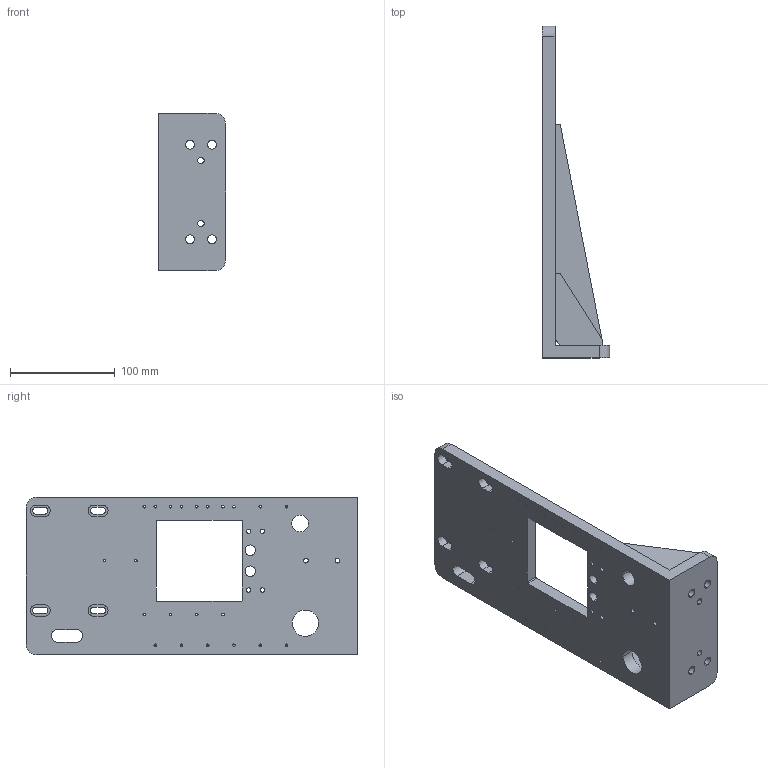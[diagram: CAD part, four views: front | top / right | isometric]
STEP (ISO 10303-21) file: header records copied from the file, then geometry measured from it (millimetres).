
FILE_DESCRIPTION (( 'STEP AP214' ), '1' );
FILE_NAME ('GZ30.20_V1絳寢假蚾啣.STEP', '2021-06-06T18:45:30', ( 'hp' ), ( '' ), 'SwSTEP 2.0', 'SolidWorks 2017', '' );
FILE_SCHEMA (( 'AUTOMOTIVE_DESIGN' ));
Length unit declared in the file: millimetre
Products named in the file (1): GZ30.20_V1絳寢假蚾啣
Bounding box: 64 x 316 x 150 mm (x, y, z)
Volume: 611793.1 mm3; surface area: 139220.6 mm2
Topology: 3 solids, 3 shells, 171 faces, 483 edges, 315 vertices
Faces by surface type: cylinder 103, plane 54, cone 14
Entity records: 6339 total; most frequent: DIRECTION 1033, CARTESIAN_POINT 956, ORIENTED_EDGE 938, EDGE_CURVE 469, AXIS2_PLACEMENT_3D 392, VERTEX_POINT 315, EDGE_LOOP 270, VECTOR 249
